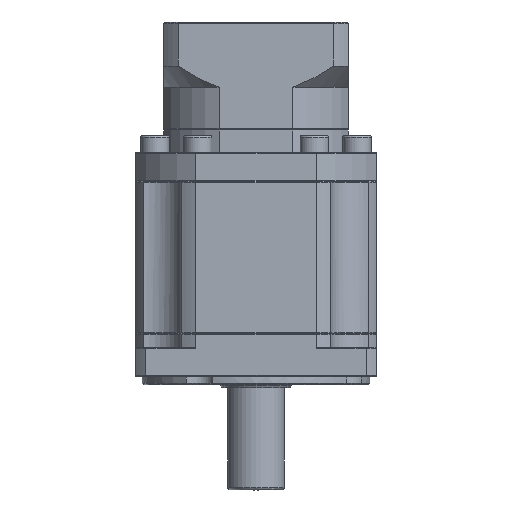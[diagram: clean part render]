
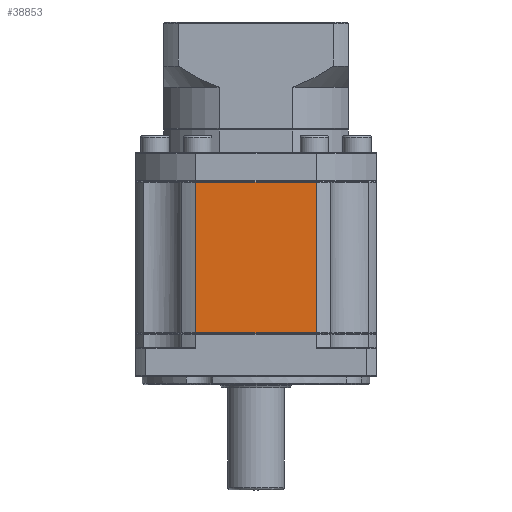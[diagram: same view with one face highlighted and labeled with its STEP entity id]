
A CAD part, front view. The second image highlights one B-rep face of the part: STEP entity #38853.
In plain terms, the highlighted planar face has unit normal (0, -1, 0).
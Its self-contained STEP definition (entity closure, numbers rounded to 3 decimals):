
#275 = CARTESIAN_POINT ( 'NONE',  ( -50.326, -20.417, -22.572 ) ) ;
#612 = EDGE_CURVE ( 'NONE', #112532, #44602, #107708, .T. ) ;
#5799 = ORIENTED_EDGE ( 'NONE', *, *, #70552, .F. ) ;
#9782 = CARTESIAN_POINT ( 'NONE',  ( -50.326, -20.417, -22.322 ) ) ;
#10906 = LINE ( 'NONE', #81333, #58321 ) ;
#14777 = ORIENTED_EDGE ( 'NONE', *, *, #108124, .F. ) ;
#18736 = DIRECTION ( 'NONE',  ( 0., 0., 1. ) ) ;
#22057 = VECTOR ( 'NONE', #66662, 1000. ) ;
#29300 = ORIENTED_EDGE ( 'NONE', *, *, #612, .F. ) ;
#29844 = CARTESIAN_POINT ( 'NONE',  ( -50.326, -20.417, -75.572 ) ) ;
#33996 = CARTESIAN_POINT ( 'NONE',  ( -92.753, -20.417, -22.322 ) ) ;
#36831 = CARTESIAN_POINT ( 'NONE',  ( -92.753, -20.417, -75.572 ) ) ;
#38853 = ADVANCED_FACE ( 'NONE', ( #44007 ), #62384, .F. ) ;
#39198 = VECTOR ( 'NONE', #50564, 1000. ) ;
#42958 = DIRECTION ( 'NONE',  ( 0., 0., 1. ) ) ;
#44007 = FACE_OUTER_BOUND ( 'NONE', #97462, .T. ) ;
#44602 = VERTEX_POINT ( 'NONE', #275 ) ;
#49877 = CARTESIAN_POINT ( 'NONE',  ( -50.326, -20.417, -22.322 ) ) ;
#50564 = DIRECTION ( 'NONE',  ( 1., 0., 0. ) ) ;
#56049 = VERTEX_POINT ( 'NONE', #36831 ) ;
#58321 = VECTOR ( 'NONE', #88795, 1000. ) ;
#60889 = VERTEX_POINT ( 'NONE', #29844 ) ;
#62384 = PLANE ( 'NONE',  #104201 ) ;
#66662 = DIRECTION ( 'NONE',  ( 0., 0., -1. ) ) ;
#70552 = EDGE_CURVE ( 'NONE', #60889, #56049, #10906, .T. ) ;
#72117 = DIRECTION ( 'NONE',  ( 0., 1., 0. ) ) ;
#81333 = CARTESIAN_POINT ( 'NONE',  ( -50.326, -20.417, -75.572 ) ) ;
#83316 = VECTOR ( 'NONE', #42958, 1000. ) ;
#86169 = LINE ( 'NONE', #33996, #83316 ) ;
#88795 = DIRECTION ( 'NONE',  ( -1., 0., 0. ) ) ;
#97462 = EDGE_LOOP ( 'NONE', ( #5799, #99283, #29300, #14777 ) ) ;
#99283 = ORIENTED_EDGE ( 'NONE', *, *, #113222, .F. ) ;
#104097 = CARTESIAN_POINT ( 'NONE',  ( -71.54, -20.417, -22.572 ) ) ;
#104201 = AXIS2_PLACEMENT_3D ( 'NONE', #9782, #72117, #18736 ) ;
#107708 = LINE ( 'NONE', #104097, #39198 ) ;
#108124 = EDGE_CURVE ( 'NONE', #56049, #112532, #86169, .T. ) ;
#108618 = CARTESIAN_POINT ( 'NONE',  ( -92.753, -20.417, -22.572 ) ) ;
#112532 = VERTEX_POINT ( 'NONE', #108618 ) ;
#113222 = EDGE_CURVE ( 'NONE', #44602, #60889, #114293, .T. ) ;
#114293 = LINE ( 'NONE', #49877, #22057 ) ;
